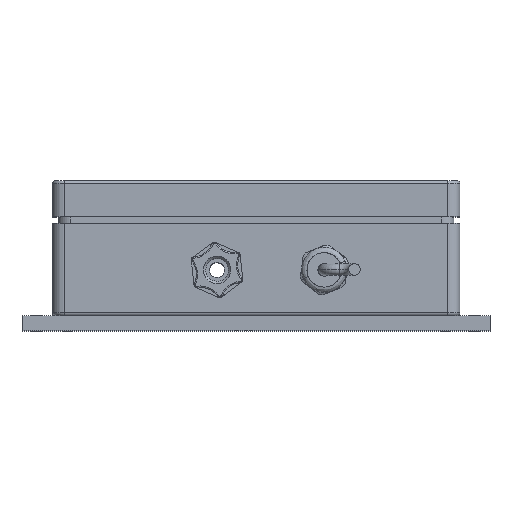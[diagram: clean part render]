
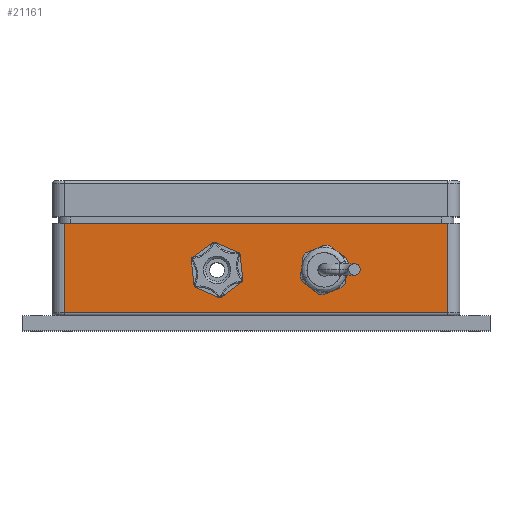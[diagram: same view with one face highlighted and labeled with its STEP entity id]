
A CAD part, top view. The second image highlights one B-rep face of the part: STEP entity #21161.
In plain terms, the highlighted planar face has unit normal (0, 0, 1).
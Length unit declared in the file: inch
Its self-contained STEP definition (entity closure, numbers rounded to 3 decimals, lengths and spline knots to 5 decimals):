
#402 = DIRECTION ( 'NONE',  ( 1., 0., 0. ) ) ;
#551 = VERTEX_POINT ( 'NONE', #20545 ) ;
#844 = LINE ( 'NONE', #10108, #23684 ) ;
#1146 = CARTESIAN_POINT ( 'NONE',  ( 3.1735, 1.534, 2.3845 ) ) ;
#1992 = DIRECTION ( 'NONE',  ( 1., 0., 0. ) ) ;
#2193 = DIRECTION ( 'NONE',  ( 0., 0., 1. ) ) ;
#2344 = CARTESIAN_POINT ( 'NONE',  ( -3.3735, 1.534, 2.3845 ) ) ;
#3529 = EDGE_CURVE ( 'NONE', #551, #12750, #26722, .T. ) ;
#4324 = ORIENTED_EDGE ( 'NONE', *, *, #6934, .T. ) ;
#4622 = FACE_BOUND ( 'NONE', #8824, .T. ) ;
#4891 = ORIENTED_EDGE ( 'NONE', *, *, #28442, .F. ) ;
#5207 = AXIS2_PLACEMENT_3D ( 'NONE', #11936, #21178, #402 ) ;
#5481 = VERTEX_POINT ( 'NONE', #29991 ) ;
#5737 = CIRCLE ( 'NONE', #22693, 0.3125 ) ;
#5938 = CARTESIAN_POINT ( 'NONE',  ( -3.1735, 1.534, 2.3845 ) ) ;
#6145 = AXIS2_PLACEMENT_3D ( 'NONE', #22973, #2193, #11453 ) ;
#6934 = EDGE_CURVE ( 'NONE', #21290, #23389, #21928, .T. ) ;
#7314 = DIRECTION ( 'NONE',  ( 1., 0., 0. ) ) ;
#7928 = ORIENTED_EDGE ( 'NONE', *, *, #21124, .F. ) ;
#8677 = CARTESIAN_POINT ( 'NONE',  ( 1.4375, 0.757, 2.3845 ) ) ;
#8824 = EDGE_LOOP ( 'NONE', ( #14728, #25686 ) ) ;
#9097 = CARTESIAN_POINT ( 'NONE',  ( -0.30625, 0.757, 2.3845 ) ) ;
#9103 = CARTESIAN_POINT ( 'NONE',  ( 1.125, 0.757, 2.3845 ) ) ;
#9123 = ORIENTED_EDGE ( 'NONE', *, *, #25839, .F. ) ;
#9654 = AXIS2_PLACEMENT_3D ( 'NONE', #18842, #28106, #7314 ) ;
#10018 = AXIS2_PLACEMENT_3D ( 'NONE', #2344, #11610, #20846 ) ;
#10108 = CARTESIAN_POINT ( 'NONE',  ( -3.3735, 1.534, 2.3845 ) ) ;
#10401 = DIRECTION ( 'NONE',  ( 0., 1., 0. ) ) ;
#10854 = CARTESIAN_POINT ( 'NONE',  ( -0.99375, 0.757, 2.3845 ) ) ;
#11453 = DIRECTION ( 'NONE',  ( 1., 0., 0. ) ) ;
#11610 = DIRECTION ( 'NONE',  ( 0., 0., -1. ) ) ;
#11936 = CARTESIAN_POINT ( 'NONE',  ( -0.65, 0.757, 2.3845 ) ) ;
#12750 = VERTEX_POINT ( 'NONE', #14235 ) ;
#13524 = LINE ( 'NONE', #22775, #21887 ) ;
#13880 = FACE_OUTER_BOUND ( 'NONE', #23541, .T. ) ;
#14235 = CARTESIAN_POINT ( 'NONE',  ( -3.1735, 0.05, 2.3845 ) ) ;
#14728 = ORIENTED_EDGE ( 'NONE', *, *, #24324, .F. ) ;
#14984 = EDGE_CURVE ( 'NONE', #12750, #21290, #13524, .T. ) ;
#15196 = DIRECTION ( 'NONE',  ( 0., -1., 0. ) ) ;
#16238 = VERTEX_POINT ( 'NONE', #8677 ) ;
#18296 = CIRCLE ( 'NONE', #5207, 0.34375 ) ;
#18349 = DIRECTION ( 'NONE',  ( 0., 0., 1. ) ) ;
#18842 = CARTESIAN_POINT ( 'NONE',  ( 1.125, 0.757, 2.3845 ) ) ;
#19224 = CIRCLE ( 'NONE', #6145, 0.34375 ) ;
#19362 = DIRECTION ( 'NONE',  ( 1., 0., 0. ) ) ;
#19486 = VERTEX_POINT ( 'NONE', #9097 ) ;
#20545 = CARTESIAN_POINT ( 'NONE',  ( -3.1735, 1.534, 2.3845 ) ) ;
#20846 = DIRECTION ( 'NONE',  ( -1., 0., 0. ) ) ;
#21124 = EDGE_CURVE ( 'NONE', #19486, #23095, #19224, .T. ) ;
#21146 = CARTESIAN_POINT ( 'NONE',  ( 3.1735, 1.534, 2.3845 ) ) ;
#21161 = ADVANCED_FACE ( 'NONE', ( #25403, #4622, #13880 ), #23125, .F. ) ;
#21178 = DIRECTION ( 'NONE',  ( 0., 0., 1. ) ) ;
#21290 = VERTEX_POINT ( 'NONE', #25855 ) ;
#21887 = VECTOR ( 'NONE', #1992, 39.37008 ) ;
#21928 = LINE ( 'NONE', #1146, #25220 ) ;
#22693 = AXIS2_PLACEMENT_3D ( 'NONE', #9103, #18349, #27616 ) ;
#22731 = CIRCLE ( 'NONE', #9654, 0.3125 ) ;
#22775 = CARTESIAN_POINT ( 'NONE',  ( 3.3735, 0.05, 2.3845 ) ) ;
#22973 = CARTESIAN_POINT ( 'NONE',  ( -0.65, 0.757, 2.3845 ) ) ;
#23095 = VERTEX_POINT ( 'NONE', #10854 ) ;
#23125 = PLANE ( 'NONE',  #10018 ) ;
#23209 = VECTOR ( 'NONE', #15196, 39.37008 ) ;
#23389 = VERTEX_POINT ( 'NONE', #21146 ) ;
#23541 = EDGE_LOOP ( 'NONE', ( #4891, #26936, #27546, #4324 ) ) ;
#23684 = VECTOR ( 'NONE', #19362, 39.37008 ) ;
#23962 = EDGE_LOOP ( 'NONE', ( #7928, #9123 ) ) ;
#24324 = EDGE_CURVE ( 'NONE', #16238, #5481, #5737, .T. ) ;
#25220 = VECTOR ( 'NONE', #10401, 39.37008 ) ;
#25403 = FACE_BOUND ( 'NONE', #23962, .T. ) ;
#25686 = ORIENTED_EDGE ( 'NONE', *, *, #29297, .F. ) ;
#25839 = EDGE_CURVE ( 'NONE', #23095, #19486, #18296, .T. ) ;
#25855 = CARTESIAN_POINT ( 'NONE',  ( 3.1735, 0.05, 2.3845 ) ) ;
#26722 = LINE ( 'NONE', #5938, #23209 ) ;
#26936 = ORIENTED_EDGE ( 'NONE', *, *, #3529, .T. ) ;
#27546 = ORIENTED_EDGE ( 'NONE', *, *, #14984, .T. ) ;
#27616 = DIRECTION ( 'NONE',  ( 1., 0., 0. ) ) ;
#28106 = DIRECTION ( 'NONE',  ( 0., 0., 1. ) ) ;
#28442 = EDGE_CURVE ( 'NONE', #551, #23389, #844, .T. ) ;
#29297 = EDGE_CURVE ( 'NONE', #5481, #16238, #22731, .T. ) ;
#29991 = CARTESIAN_POINT ( 'NONE',  ( 0.8125, 0.757, 2.3845 ) ) ;
